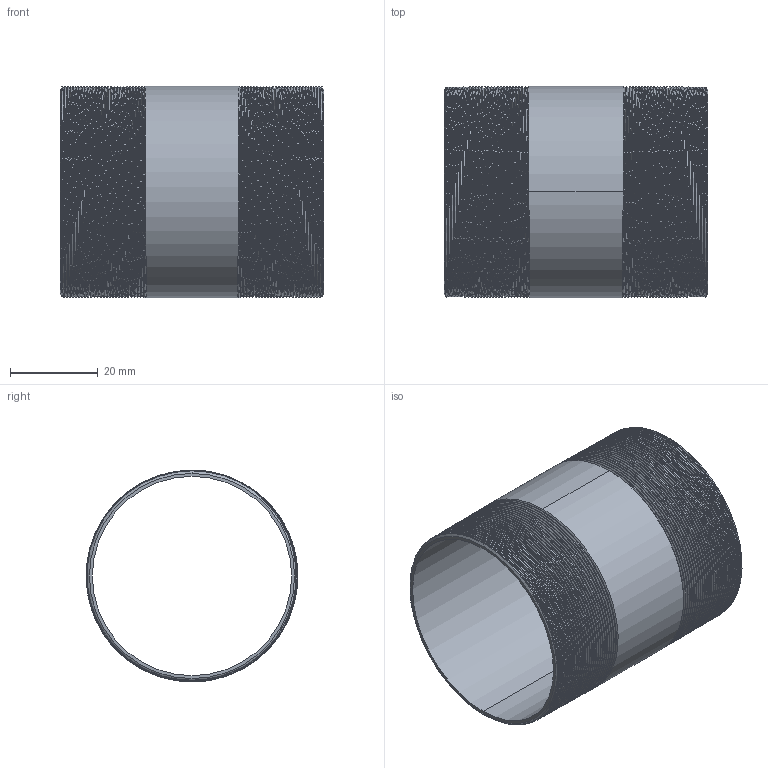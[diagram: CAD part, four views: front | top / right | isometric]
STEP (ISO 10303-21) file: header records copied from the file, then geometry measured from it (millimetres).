
FILE_DESCRIPTION (( 'STEP AP203' ), '1' );
FILE_NAME ('3D_R210_1 1-2x60_17148585.STEP', '2024-08-16T10:04:27', ( '' ), ( '' ), 'SwSTEP 2.0', 'SolidWorks 2024', '' );
FILE_SCHEMA (( 'CONFIG_CONTROL_DESIGN' ));
Length unit declared in the file: millimetre
Products named in the file (1): 3D_R210_1 1-2x60_17148585
Bounding box: 60 x 48.24 x 48.3 mm (x, y, z)
Volume: 11134.7 mm3; surface area: 20629.5 mm2
Topology: 1 solids, 1 shells, 128 faces, 370 edges, 244 vertices
Faces by surface type: cone 114, bspline 6, cylinder 4, plane 4
Entity records: 21897 total; most frequent: CARTESIAN_POINT 18931, ORIENTED_EDGE 740, DIRECTION 398, EDGE_CURVE 370, VERTEX_POINT 244, B_SPLINE_CURVE_WITH_KNOTS 224, AXIS2_PLACEMENT_3D 137, EDGE_LOOP 130
